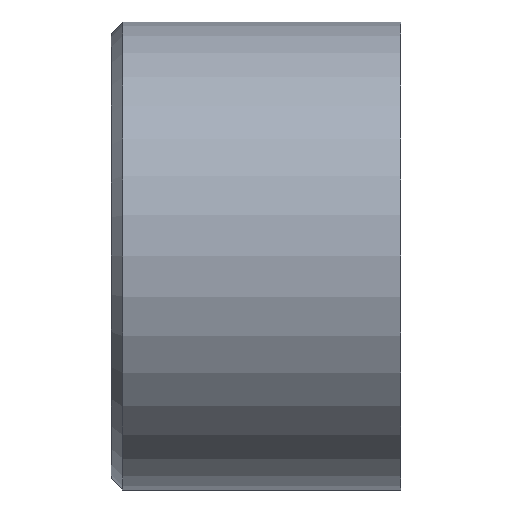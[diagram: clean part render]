
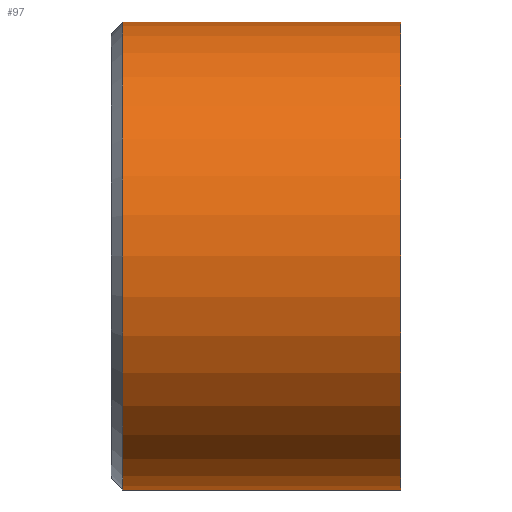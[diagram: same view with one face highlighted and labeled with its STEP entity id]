
A CAD part, left-side view. The second image highlights one B-rep face of the part: STEP entity #97.
In plain terms, the highlighted cylindrical face has radius 31.5 mm (diameter 63 mm), a full revolution.
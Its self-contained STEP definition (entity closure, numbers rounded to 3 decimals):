
#15=CYLINDRICAL_SURFACE('',#110,31.5);
#23=FACE_BOUND('',#42,.T.);
#31=FACE_OUTER_BOUND('',#41,.T.);
#41=EDGE_LOOP('',(#81));
#42=EDGE_LOOP('',(#82));
#53=CIRCLE('',#106,31.5);
#56=CIRCLE('',#111,31.5);
#61=VERTEX_POINT('',#157);
#64=VERTEX_POINT('',#165);
#69=EDGE_CURVE('',#61,#61,#53,.T.);
#72=EDGE_CURVE('',#64,#64,#56,.T.);
#81=ORIENTED_EDGE('',*,*,#72,.T.);
#82=ORIENTED_EDGE('',*,*,#69,.F.);
#97=ADVANCED_FACE('',(#31,#23),#15,.T.);
#106=AXIS2_PLACEMENT_3D('',#158,#125,#126);
#110=AXIS2_PLACEMENT_3D('',#164,#133,#134);
#111=AXIS2_PLACEMENT_3D('',#166,#135,#136);
#125=DIRECTION('center_axis',(0.,1.,0.));
#126=DIRECTION('ref_axis',(1.,0.,0.));
#133=DIRECTION('center_axis',(0.,1.,0.));
#134=DIRECTION('ref_axis',(-1.,0.,0.));
#135=DIRECTION('center_axis',(0.,1.,0.));
#136=DIRECTION('ref_axis',(1.,0.,0.));
#157=CARTESIAN_POINT('',(-31.5,37.425,0.));
#158=CARTESIAN_POINT('Origin',(0.,37.425,0.));
#164=CARTESIAN_POINT('Origin',(0.,19.5,0.));
#165=CARTESIAN_POINT('',(-31.5,0.,0.));
#166=CARTESIAN_POINT('Origin',(0.,0.,0.));
